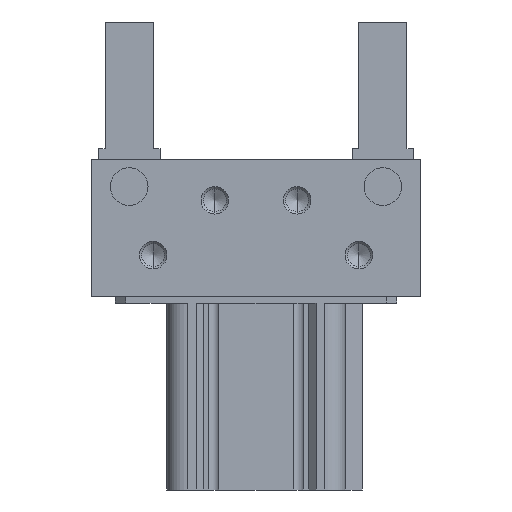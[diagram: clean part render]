
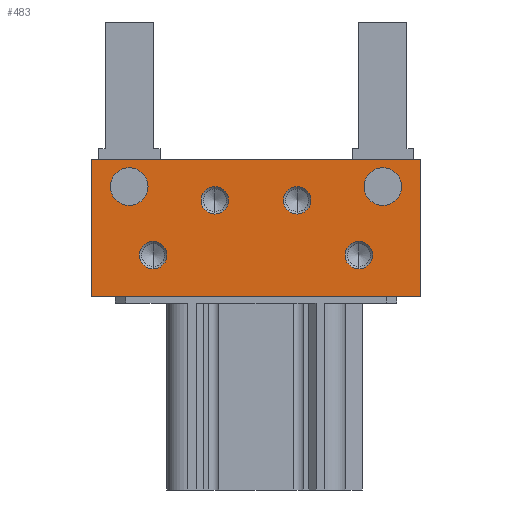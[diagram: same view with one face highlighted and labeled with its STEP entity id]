
A CAD part, front view. The second image highlights one B-rep face of the part: STEP entity #483.
In plain terms, the highlighted planar face has unit normal (0, -1, 0).
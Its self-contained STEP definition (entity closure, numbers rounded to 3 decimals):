
#35 = VERTEX_POINT ( 'NONE', #4389 ) ;
#36 = AXIS2_PLACEMENT_3D ( 'NONE', #2302, #5747, #7659 ) ;
#152 = VECTOR ( 'NONE', #3872, 1000. ) ;
#203 = CARTESIAN_POINT ( 'NONE',  ( 0., -26.5, 0. ) ) ;
#215 = DIRECTION ( 'NONE',  ( 0., 1., 0. ) ) ;
#224 = EDGE_LOOP ( 'NONE', ( #3874, #3182 ) ) ;
#389 = VERTEX_POINT ( 'NONE', #5457 ) ;
#437 = DIRECTION ( 'NONE',  ( 0., 1., 0. ) ) ;
#483 = ADVANCED_FACE ( 'NONE', ( #969, #1590, #2580, #1510, #4018, #7586, #1050 ), #7620, .F. ) ;
#488 = VERTEX_POINT ( 'NONE', #1625 ) ;
#493 = CARTESIAN_POINT ( 'NONE',  ( 30., -26.5, 68.5 ) ) ;
#590 = EDGE_CURVE ( 'NONE', #2328, #3740, #1981, .T. ) ;
#642 = DIRECTION ( 'NONE',  ( 1., 0., 0. ) ) ;
#653 = AXIS2_PLACEMENT_3D ( 'NONE', #5587, #215, #3700 ) ;
#807 = CIRCLE ( 'NONE', #1182, 4. ) ;
#811 = ORIENTED_EDGE ( 'NONE', *, *, #7571, .T. ) ;
#863 = EDGE_LOOP ( 'NONE', ( #6457, #2188 ) ) ;
#969 = FACE_OUTER_BOUND ( 'NONE', #5005, .T. ) ;
#1005 = EDGE_CURVE ( 'NONE', #4995, #4053, #2254, .T. ) ;
#1050 = FACE_BOUND ( 'NONE', #863, .T. ) ;
#1133 = VERTEX_POINT ( 'NONE', #4323 ) ;
#1160 = CARTESIAN_POINT ( 'NONE',  ( 48., -26.5, 56.5 ) ) ;
#1169 = EDGE_LOOP ( 'NONE', ( #811, #6306 ) ) ;
#1180 = EDGE_CURVE ( 'NONE', #488, #1953, #3515, .T. ) ;
#1182 = AXIS2_PLACEMENT_3D ( 'NONE', #2945, #5342, #6045 ) ;
#1202 = CARTESIAN_POINT ( 'NONE',  ( -12., -26.5, 80.5 ) ) ;
#1472 = VERTEX_POINT ( 'NONE', #4746 ) ;
#1510 = FACE_BOUND ( 'NONE', #2789, .T. ) ;
#1590 = FACE_BOUND ( 'NONE', #1169, .T. ) ;
#1625 = CARTESIAN_POINT ( 'NONE',  ( 12., -26.5, 88.5 ) ) ;
#1643 = AXIS2_PLACEMENT_3D ( 'NONE', #6832, #3258, #2089 ) ;
#1953 = VERTEX_POINT ( 'NONE', #6659 ) ;
#1981 = CIRCLE ( 'NONE', #3987, 5.5 ) ;
#2089 = DIRECTION ( 'NONE',  ( 0., 0., 1. ) ) ;
#2188 = ORIENTED_EDGE ( 'NONE', *, *, #1180, .T. ) ;
#2190 = CARTESIAN_POINT ( 'NONE',  ( 37., -26.5, 83. ) ) ;
#2214 = CARTESIAN_POINT ( 'NONE',  ( -48., -26.5, 96.5 ) ) ;
#2243 = ORIENTED_EDGE ( 'NONE', *, *, #7181, .F. ) ;
#2254 = CIRCLE ( 'NONE', #4254, 4. ) ;
#2302 = CARTESIAN_POINT ( 'NONE',  ( -30., -26.5, 68.5 ) ) ;
#2328 = VERTEX_POINT ( 'NONE', #2190 ) ;
#2454 = EDGE_LOOP ( 'NONE', ( #3544, #6029 ) ) ;
#2580 = FACE_BOUND ( 'NONE', #2812, .T. ) ;
#2763 = CARTESIAN_POINT ( 'NONE',  ( -48., -26.5, 96.5 ) ) ;
#2789 = EDGE_LOOP ( 'NONE', ( #3330, #3731 ) ) ;
#2809 = DIRECTION ( 'NONE',  ( 0., 1., 0. ) ) ;
#2812 = EDGE_LOOP ( 'NONE', ( #4187, #2907 ) ) ;
#2862 = LINE ( 'NONE', #5261, #6174 ) ;
#2869 = EDGE_CURVE ( 'NONE', #4010, #35, #6569, .T. ) ;
#2901 = AXIS2_PLACEMENT_3D ( 'NONE', #7554, #2809, #5209 ) ;
#2907 = ORIENTED_EDGE ( 'NONE', *, *, #7712, .T. ) ;
#2914 = DIRECTION ( 'NONE',  ( 0., 0., 1. ) ) ;
#2945 = CARTESIAN_POINT ( 'NONE',  ( 12., -26.5, 84.5 ) ) ;
#3091 = EDGE_CURVE ( 'NONE', #1133, #5679, #7649, .T. ) ;
#3182 = ORIENTED_EDGE ( 'NONE', *, *, #7253, .T. ) ;
#3258 = DIRECTION ( 'NONE',  ( 0., 1., 0. ) ) ;
#3324 = VERTEX_POINT ( 'NONE', #5056 ) ;
#3330 = ORIENTED_EDGE ( 'NONE', *, *, #3804, .T. ) ;
#3349 = EDGE_CURVE ( 'NONE', #35, #3510, #6088, .T. ) ;
#3388 = DIRECTION ( 'NONE',  ( 1., 0., 0. ) ) ;
#3510 = VERTEX_POINT ( 'NONE', #2763 ) ;
#3511 = EDGE_CURVE ( 'NONE', #3540, #389, #6542, .T. ) ;
#3515 = CIRCLE ( 'NONE', #653, 4. ) ;
#3522 = EDGE_CURVE ( 'NONE', #3324, #1472, #7656, .T. ) ;
#3540 = VERTEX_POINT ( 'NONE', #6381 ) ;
#3544 = ORIENTED_EDGE ( 'NONE', *, *, #5523, .T. ) ;
#3626 = VERTEX_POINT ( 'NONE', #7388 ) ;
#3672 = CARTESIAN_POINT ( 'NONE',  ( 48., -26.5, 56.5 ) ) ;
#3700 = DIRECTION ( 'NONE',  ( 0., 0., 1. ) ) ;
#3720 = CIRCLE ( 'NONE', #5354, 5.5 ) ;
#3731 = ORIENTED_EDGE ( 'NONE', *, *, #3522, .T. ) ;
#3740 = VERTEX_POINT ( 'NONE', #7434 ) ;
#3804 = EDGE_CURVE ( 'NONE', #1472, #3324, #5295, .T. ) ;
#3872 = DIRECTION ( 'NONE',  ( 0., 0., 1. ) ) ;
#3874 = ORIENTED_EDGE ( 'NONE', *, *, #1005, .T. ) ;
#3910 = CARTESIAN_POINT ( 'NONE',  ( -12., -26.5, 84.5 ) ) ;
#3987 = AXIS2_PLACEMENT_3D ( 'NONE', #7196, #4138, #7705 ) ;
#4010 = VERTEX_POINT ( 'NONE', #3672 ) ;
#4018 = FACE_BOUND ( 'NONE', #224, .T. ) ;
#4040 = AXIS2_PLACEMENT_3D ( 'NONE', #3910, #7650, #7072 ) ;
#4053 = VERTEX_POINT ( 'NONE', #6178 ) ;
#4138 = DIRECTION ( 'NONE',  ( 0., 1., 0. ) ) ;
#4157 = DIRECTION ( 'NONE',  ( 0., 1., 0. ) ) ;
#4169 = DIRECTION ( 'NONE',  ( 0., 0., 1. ) ) ;
#4187 = ORIENTED_EDGE ( 'NONE', *, *, #590, .T. ) ;
#4217 = EDGE_CURVE ( 'NONE', #3626, #4010, #2862, .T. ) ;
#4254 = AXIS2_PLACEMENT_3D ( 'NONE', #493, #5385, #4169 ) ;
#4323 = CARTESIAN_POINT ( 'NONE',  ( -12., -26.5, 88.5 ) ) ;
#4389 = CARTESIAN_POINT ( 'NONE',  ( -48., -26.5, 56.5 ) ) ;
#4573 = CIRCLE ( 'NONE', #4825, 4. ) ;
#4663 = AXIS2_PLACEMENT_3D ( 'NONE', #7719, #7124, #5298 ) ;
#4688 = DIRECTION ( 'NONE',  ( 0., 1., 0. ) ) ;
#4746 = CARTESIAN_POINT ( 'NONE',  ( -30., -26.5, 64.5 ) ) ;
#4825 = AXIS2_PLACEMENT_3D ( 'NONE', #6522, #4688, #2914 ) ;
#4995 = VERTEX_POINT ( 'NONE', #5212 ) ;
#5005 = EDGE_LOOP ( 'NONE', ( #5260, #7538, #6165, #2243 ) ) ;
#5010 = CARTESIAN_POINT ( 'NONE',  ( -48., -26.5, 56.5 ) ) ;
#5056 = CARTESIAN_POINT ( 'NONE',  ( -30., -26.5, 72.5 ) ) ;
#5080 = LINE ( 'NONE', #2214, #6578 ) ;
#5162 = CIRCLE ( 'NONE', #4663, 5.5 ) ;
#5168 = CARTESIAN_POINT ( 'NONE',  ( -37., -26.5, 88.5 ) ) ;
#5209 = DIRECTION ( 'NONE',  ( 0., 0., 1. ) ) ;
#5212 = CARTESIAN_POINT ( 'NONE',  ( 30., -26.5, 64.5 ) ) ;
#5227 = DIRECTION ( 'NONE',  ( 0., 0., -1. ) ) ;
#5232 = DIRECTION ( 'NONE',  ( -1., 0., 0. ) ) ;
#5237 = DIRECTION ( 'NONE',  ( 0., 1., 0. ) ) ;
#5260 = ORIENTED_EDGE ( 'NONE', *, *, #3349, .F. ) ;
#5261 = CARTESIAN_POINT ( 'NONE',  ( 48., -26.5, 96.5 ) ) ;
#5295 = CIRCLE ( 'NONE', #36, 4. ) ;
#5298 = DIRECTION ( 'NONE',  ( 1., 0., 0. ) ) ;
#5342 = DIRECTION ( 'NONE',  ( 0., 1., 0. ) ) ;
#5354 = AXIS2_PLACEMENT_3D ( 'NONE', #6120, #4157, #642 ) ;
#5361 = AXIS2_PLACEMENT_3D ( 'NONE', #203, #5237, #3388 ) ;
#5385 = DIRECTION ( 'NONE',  ( 0., 1., 0. ) ) ;
#5423 = CIRCLE ( 'NONE', #4040, 4. ) ;
#5457 = CARTESIAN_POINT ( 'NONE',  ( -37., -26.5, 83. ) ) ;
#5523 = EDGE_CURVE ( 'NONE', #5679, #1133, #5423, .T. ) ;
#5547 = AXIS2_PLACEMENT_3D ( 'NONE', #5168, #437, #6464 ) ;
#5587 = CARTESIAN_POINT ( 'NONE',  ( 12., -26.5, 84.5 ) ) ;
#5679 = VERTEX_POINT ( 'NONE', #1202 ) ;
#5747 = DIRECTION ( 'NONE',  ( 0., 1., 0. ) ) ;
#6029 = ORIENTED_EDGE ( 'NONE', *, *, #3091, .T. ) ;
#6045 = DIRECTION ( 'NONE',  ( 0., 0., 1. ) ) ;
#6088 = LINE ( 'NONE', #5010, #152 ) ;
#6095 = EDGE_CURVE ( 'NONE', #1953, #488, #807, .T. ) ;
#6120 = CARTESIAN_POINT ( 'NONE',  ( 37., -26.5, 88.5 ) ) ;
#6165 = ORIENTED_EDGE ( 'NONE', *, *, #4217, .F. ) ;
#6174 = VECTOR ( 'NONE', #5227, 1000. ) ;
#6178 = CARTESIAN_POINT ( 'NONE',  ( 30., -26.5, 72.5 ) ) ;
#6306 = ORIENTED_EDGE ( 'NONE', *, *, #3511, .T. ) ;
#6381 = CARTESIAN_POINT ( 'NONE',  ( -37., -26.5, 94. ) ) ;
#6457 = ORIENTED_EDGE ( 'NONE', *, *, #6095, .T. ) ;
#6464 = DIRECTION ( 'NONE',  ( 1., 0., 0. ) ) ;
#6522 = CARTESIAN_POINT ( 'NONE',  ( 30., -26.5, 68.5 ) ) ;
#6542 = CIRCLE ( 'NONE', #5547, 5.5 ) ;
#6569 = LINE ( 'NONE', #1160, #7515 ) ;
#6578 = VECTOR ( 'NONE', #6956, 1000. ) ;
#6659 = CARTESIAN_POINT ( 'NONE',  ( 12., -26.5, 80.5 ) ) ;
#6832 = CARTESIAN_POINT ( 'NONE',  ( -12., -26.5, 84.5 ) ) ;
#6956 = DIRECTION ( 'NONE',  ( 1., 0., 0. ) ) ;
#7072 = DIRECTION ( 'NONE',  ( 0., 0., 1. ) ) ;
#7124 = DIRECTION ( 'NONE',  ( 0., 1., 0. ) ) ;
#7181 = EDGE_CURVE ( 'NONE', #3510, #3626, #5080, .T. ) ;
#7196 = CARTESIAN_POINT ( 'NONE',  ( 37., -26.5, 88.5 ) ) ;
#7253 = EDGE_CURVE ( 'NONE', #4053, #4995, #4573, .T. ) ;
#7388 = CARTESIAN_POINT ( 'NONE',  ( 48., -26.5, 96.5 ) ) ;
#7434 = CARTESIAN_POINT ( 'NONE',  ( 37., -26.5, 94. ) ) ;
#7515 = VECTOR ( 'NONE', #5232, 1000. ) ;
#7538 = ORIENTED_EDGE ( 'NONE', *, *, #2869, .F. ) ;
#7554 = CARTESIAN_POINT ( 'NONE',  ( -30., -26.5, 68.5 ) ) ;
#7571 = EDGE_CURVE ( 'NONE', #389, #3540, #5162, .T. ) ;
#7586 = FACE_BOUND ( 'NONE', #2454, .T. ) ;
#7620 = PLANE ( 'NONE',  #5361 ) ;
#7649 = CIRCLE ( 'NONE', #1643, 4. ) ;
#7650 = DIRECTION ( 'NONE',  ( 0., 1., 0. ) ) ;
#7656 = CIRCLE ( 'NONE', #2901, 4. ) ;
#7659 = DIRECTION ( 'NONE',  ( 0., 0., 1. ) ) ;
#7705 = DIRECTION ( 'NONE',  ( 1., 0., 0. ) ) ;
#7712 = EDGE_CURVE ( 'NONE', #3740, #2328, #3720, .T. ) ;
#7719 = CARTESIAN_POINT ( 'NONE',  ( -37., -26.5, 88.5 ) ) ;
